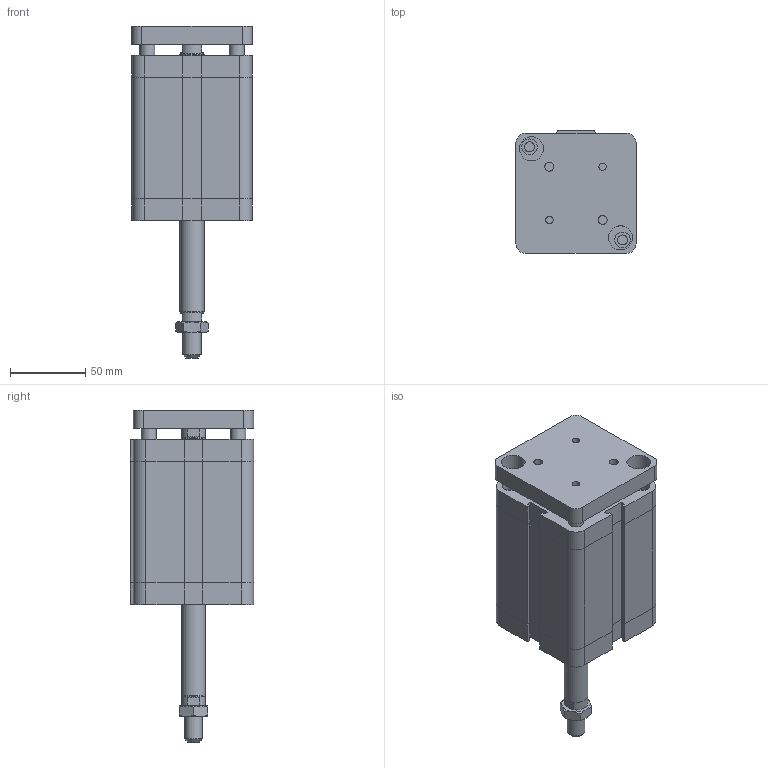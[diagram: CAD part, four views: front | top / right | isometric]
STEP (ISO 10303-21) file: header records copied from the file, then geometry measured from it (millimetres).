
FILE_DESCRIPTION((''),'2;1');
FILE_NAME('I:\Area Tecnica\Disegni\VARIE-3D\Componenti\EUROPE\15##_###_####_09_#\1581_63_0060_09_1.iam.stp','2009-04-20T15:47:59',(''),(''),'Autodesk Inventor 2009','Autodesk Inventor 2009','');
FILE_SCHEMA(('AUTOMOTIVE_DESIGN { 1 0 10303 214 1 1 1 1 }'));
Length unit declared in the file: millimetre
Products named in the file (4): 1581_63_0060_09_1; 1581_63_0060_08_1_C; 1561_63_0060_09_1_SA; DBFM12
Assembly tree (3 placements, depth 2):
  1581_63_0060_09_1
    1581_63_0060_08_1_C
    1561_63_0060_09_1_SA
    DBFM12
Bounding box: 80 x 82 x 221 mm (x, y, z)
Volume: 770507.7 mm3; surface area: 96189.1 mm2
Topology: 3 solids, 3 shells, 209 faces, 470 edges, 287 vertices
Faces by surface type: plane 120, bspline 45, cylinder 23, cone 21
Full cylindrical faces by diameter (mm): 10 x2, 10.8 x1, 12 x1, 15.6 x2, 16 x1
Entity records: 5963 total; most frequent: CARTESIAN_POINT 1453, DIRECTION 838, ORIENTED_EDGE 834, EDGE_CURVE 417, AXIS2_PLACEMENT_3D 282, EDGE_LOOP 282, VECTOR 274, LINE 274
